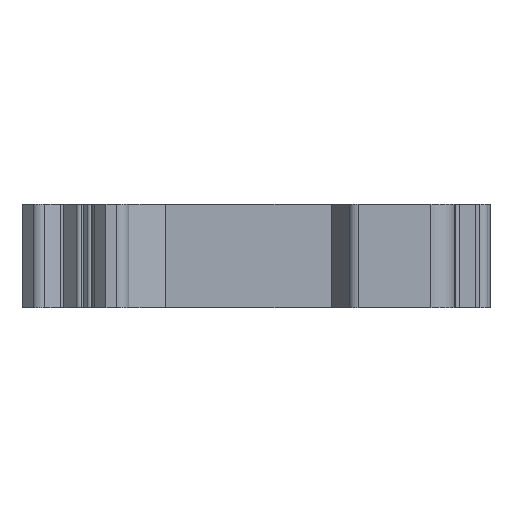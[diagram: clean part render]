
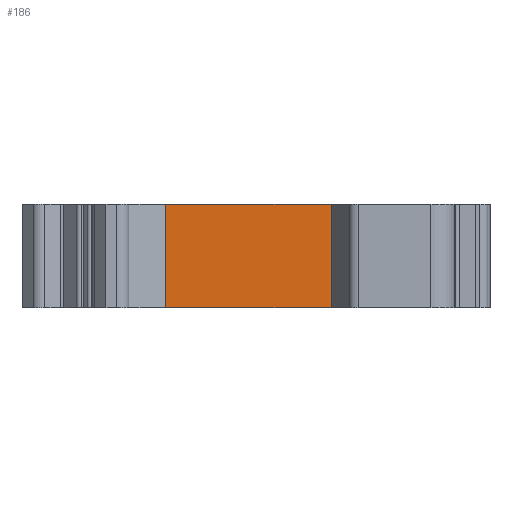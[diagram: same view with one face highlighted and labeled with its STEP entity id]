
A CAD part, left-side view. The second image highlights one B-rep face of the part: STEP entity #186.
In plain terms, the highlighted planar face has unit normal (-1, 0, 0).
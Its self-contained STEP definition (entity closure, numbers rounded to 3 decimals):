
#186=ADVANCED_FACE('',(#411),#315,.T.);
#315=PLANE('',#2762);
#411=FACE_OUTER_BOUND('',#545,.T.);
#545=EDGE_LOOP('',(#748,#749,#750,#751));
#748=ORIENTED_EDGE('',*,*,#1782,.F.);
#749=ORIENTED_EDGE('',*,*,#1781,.F.);
#750=ORIENTED_EDGE('',*,*,#1783,.T.);
#751=ORIENTED_EDGE('',*,*,#1784,.T.);
#1494=VERTEX_POINT('',#3838);
#1495=VERTEX_POINT('',#3840);
#1496=VERTEX_POINT('',#3844);
#1497=VERTEX_POINT('',#3846);
#1781=EDGE_CURVE('',#1495,#1494,#2167,.T.);
#1782=EDGE_CURVE('',#1494,#1496,#2168,.T.);
#1783=EDGE_CURVE('',#1495,#1497,#2169,.T.);
#1784=EDGE_CURVE('',#1497,#1496,#2170,.T.);
#2167=LINE('',#3841,#2477);
#2168=LINE('',#3843,#2478);
#2169=LINE('',#3845,#2479);
#2170=LINE('',#3847,#2480);
#2477=VECTOR('',#3074,1.);
#2478=VECTOR('',#3077,1.);
#2479=VECTOR('',#3078,1.);
#2480=VECTOR('',#3079,1.);
#2762=AXIS2_PLACEMENT_3D('',#3848,#3080,#3081);
#3074=DIRECTION('',(0.,0.,1.));
#3077=DIRECTION('',(0.,-1.,0.));
#3078=DIRECTION('',(0.,-1.,0.));
#3079=DIRECTION('',(0.,0.,1.));
#3080=DIRECTION('',(-1.,0.,0.));
#3081=DIRECTION('',(0.,0.,1.));
#3838=CARTESIAN_POINT('',(-84.163,-3910.618,0.));
#3840=CARTESIAN_POINT('',(-84.163,-3910.618,-10.2));
#3841=CARTESIAN_POINT('',(-84.163,-3910.618,-10.2));
#3843=CARTESIAN_POINT('',(-84.163,-3910.618,0.));
#3844=CARTESIAN_POINT('',(-84.163,-3926.918,0.));
#3845=CARTESIAN_POINT('',(-84.163,-3910.618,-10.2));
#3846=CARTESIAN_POINT('',(-84.163,-3926.918,-10.2));
#3847=CARTESIAN_POINT('',(-84.163,-3926.918,-10.2));
#3848=CARTESIAN_POINT('',(-84.163,-3910.618,-10.2));
